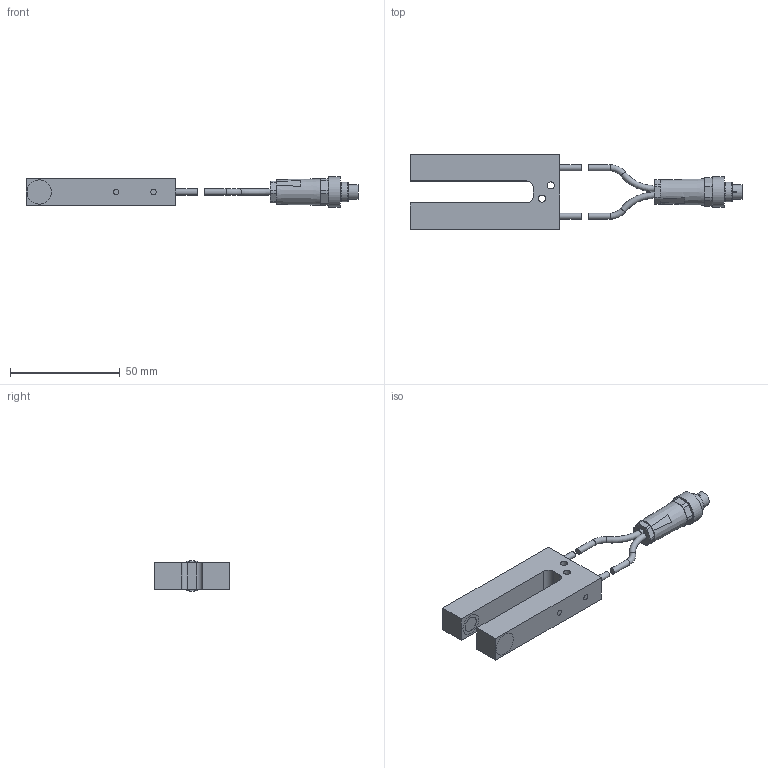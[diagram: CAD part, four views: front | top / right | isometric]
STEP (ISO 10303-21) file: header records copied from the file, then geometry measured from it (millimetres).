
FILE_DESCRIPTION(/* description */ (''),/* implementation_level */ '2;1');
FILE_NAME(/* name */ 'H:\ZVW\Inventor\E-Mail-Zeichnungen\STEP\HOMEPAGE\A-LAS-F12-...-10_50-C_0720_00.stp',/* time_stamp */ '2014-08-18T10:44:06+02:00',/* author */ ('TK-01'),/* organization */ (''),/* preprocessor_version */ 'ST-DEVELOPER v15.2',/* originating_system */ 'Autodesk Inventor 2014',/* authorisation */ '');
FILE_SCHEMA (('AUTOMOTIVE_DESIGN { 1 0 10303 214 3 1 1 }'));
Length unit declared in the file: millimetre
Products named in the file (1): A-LAS-F12-...-10_50-C_0720_00
Bounding box: 151 x 34 x 14 mm (x, y, z)
Surface area: 33573.6 mm2
Topology: 8 solids, 12 shells, 159 faces, 339 edges, 221 vertices
Faces by surface type: plane 72, cylinder 60, cone 11, sphere 9, torus 5, bspline 2
Full cylindrical faces by diameter (mm): 0.5 x7, 2.5 x8, 2.8 x6, 2.9 x2, 3.242 x2, 6 x1, 6.8 x1, 7.1 x1, 7.15 x2, 7.5 x1, 8 x1, 9 x2, 10 x2, 14 x1
Entity records: 3950 total; most frequent: CARTESIAN_POINT 836, DIRECTION 686, ORIENTED_EDGE 512, AXIS2_PLACEMENT_3D 298, EDGE_CURVE 252, EDGE_LOOP 245, VERTEX_POINT 191, ADVANCED_FACE 159
